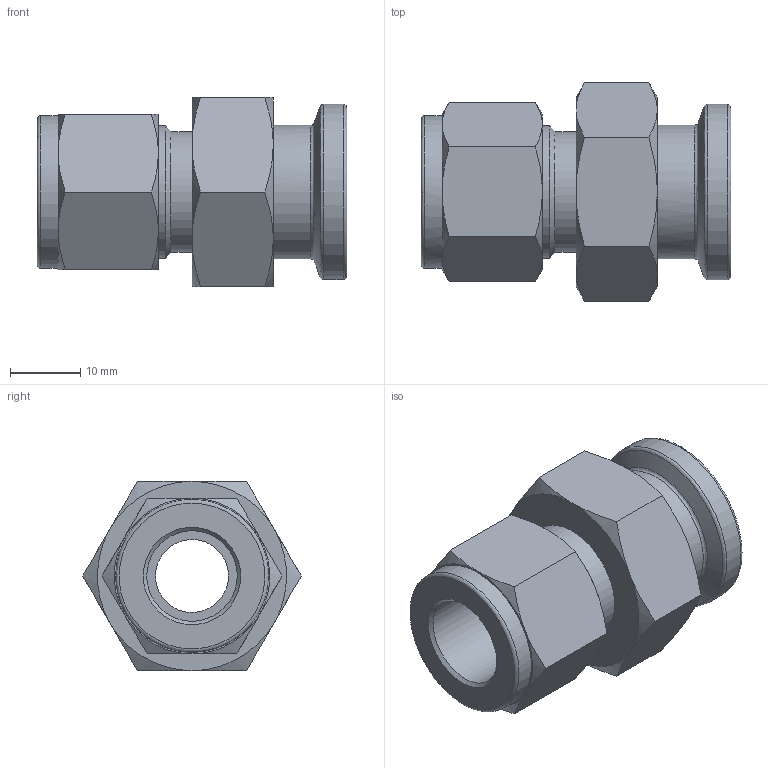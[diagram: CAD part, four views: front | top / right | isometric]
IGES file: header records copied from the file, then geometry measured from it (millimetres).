
Global section: file name: SSFA-8-12SA; native system: Autodesk Inventor 2016; preprocessor: unknown; author: DESIGNPC2; date: 20160312.145150; units: millimetre
Bounding box: 44.2 x 31.18 x 27 mm (x, y, z)
Volume: 13843.3 mm3; surface area: 6739.4 mm2
Topology: 1 solids, 1 shells, 66 faces, 172 edges, 115 vertices
Faces by surface type: bspline 66
